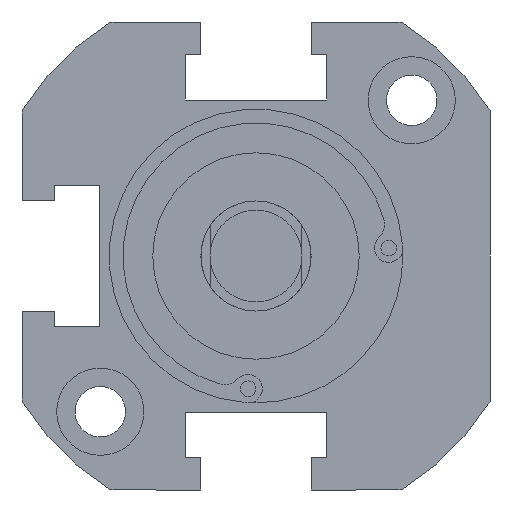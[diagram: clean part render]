
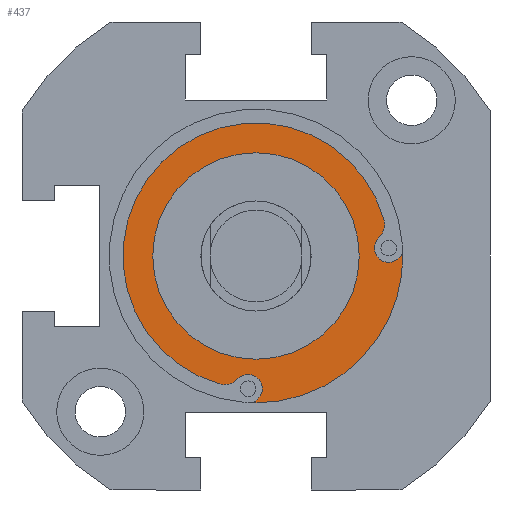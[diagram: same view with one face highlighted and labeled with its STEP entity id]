
A CAD part, front view. The second image highlights one B-rep face of the part: STEP entity #437.
In plain terms, the highlighted planar face has unit normal (0, -1, 0).
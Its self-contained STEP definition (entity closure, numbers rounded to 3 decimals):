
#12 = VERTEX_POINT ( 'NONE', #2647 ) ;
#26 = DIRECTION ( 'NONE',  ( 0., 1., 0. ) ) ;
#42 = EDGE_LOOP ( 'NONE', ( #2680, #2923, #3305, #2929, #1529, #154, #2613, #2730, #2969 ) ) ;
#44 = VERTEX_POINT ( 'NONE', #2404 ) ;
#48 = EDGE_LOOP ( 'NONE', ( #2308, #3347 ) ) ;
#154 = ORIENTED_EDGE ( 'NONE', *, *, #3213, .T. ) ;
#201 = CARTESIAN_POINT ( 'NONE',  ( 0., -33., -16. ) ) ;
#214 = VERTEX_POINT ( 'NONE', #1533 ) ;
#221 = CIRCLE ( 'NONE', #1075, 1.55 ) ;
#283 = DIRECTION ( 'NONE',  ( 0., -1., 0. ) ) ;
#353 = EDGE_CURVE ( 'NONE', #2619, #497, #850, .T. ) ;
#437 = ADVANCED_FACE ( 'NONE', ( #603, #1655 ), #2090, .T. ) ;
#479 = CARTESIAN_POINT ( 'NONE',  ( 13.942, -33., 3.982 ) ) ;
#497 = VERTEX_POINT ( 'NONE', #3640 ) ;
#506 = DIRECTION ( 'NONE',  ( 0., 0., 1. ) ) ;
#540 = CARTESIAN_POINT ( 'NONE',  ( -0.582, -33., -15.989 ) ) ;
#543 = VERTEX_POINT ( 'NONE', #540 ) ;
#567 = AXIS2_PLACEMENT_3D ( 'NONE', #2408, #1832, #2752 ) ;
#603 = FACE_OUTER_BOUND ( 'NONE', #42, .T. ) ;
#614 = CARTESIAN_POINT ( 'NONE',  ( -3.433, -33., -12.019 ) ) ;
#663 = AXIS2_PLACEMENT_3D ( 'NONE', #3015, #2079, #1752 ) ;
#683 = DIRECTION ( 'NONE',  ( 0., 0., 1. ) ) ;
#794 = AXIS2_PLACEMENT_3D ( 'NONE', #2944, #2932, #2001 ) ;
#815 = CIRCLE ( 'NONE', #1054, 16. ) ;
#850 = CIRCLE ( 'NONE', #2434, 11.25 ) ;
#932 = CARTESIAN_POINT ( 'NONE',  ( 12.019, -33., 3.433 ) ) ;
#1054 = AXIS2_PLACEMENT_3D ( 'NONE', #2591, #1658, #683 ) ;
#1059 = VERTEX_POINT ( 'NONE', #1797 ) ;
#1075 = AXIS2_PLACEMENT_3D ( 'NONE', #3875, #2538, #1685 ) ;
#1202 = EDGE_CURVE ( 'NONE', #2440, #214, #2196, .T. ) ;
#1258 = CARTESIAN_POINT ( 'NONE',  ( -3.433, -33., -14.019 ) ) ;
#1278 = CARTESIAN_POINT ( 'NONE',  ( 0., -33., 0. ) ) ;
#1293 = CIRCLE ( 'NONE', #3085, 14.5 ) ;
#1354 = DIRECTION ( 'NONE',  ( 0., 1., 0. ) ) ;
#1412 = EDGE_CURVE ( 'NONE', #12, #2440, #2528, .T. ) ;
#1497 = EDGE_CURVE ( 'NONE', #44, #2882, #2954, .T. ) ;
#1516 = CARTESIAN_POINT ( 'NONE',  ( -0.859, -33., -14.464 ) ) ;
#1529 = ORIENTED_EDGE ( 'NONE', *, *, #1202, .T. ) ;
#1533 = CARTESIAN_POINT ( 'NONE',  ( -1.983, -33., -13.397 ) ) ;
#1544 = CIRCLE ( 'NONE', #2271, 16. ) ;
#1609 = DIRECTION ( 'NONE',  ( 0., 0., -1. ) ) ;
#1625 = CARTESIAN_POINT ( 'NONE',  ( 0., -33., 0. ) ) ;
#1655 = FACE_BOUND ( 'NONE', #48, .T. ) ;
#1658 = DIRECTION ( 'NONE',  ( 0., 1., 0. ) ) ;
#1685 = DIRECTION ( 'NONE',  ( 0., 0., 1. ) ) ;
#1689 = CARTESIAN_POINT ( 'NONE',  ( 0., -33., 0. ) ) ;
#1738 = CARTESIAN_POINT ( 'NONE',  ( 0., -33., 0. ) ) ;
#1752 = DIRECTION ( 'NONE',  ( 0., 0., 1. ) ) ;
#1797 = CARTESIAN_POINT ( 'NONE',  ( 15.989, -33., 0.582 ) ) ;
#1832 = DIRECTION ( 'NONE',  ( 0., -1., 0. ) ) ;
#1979 = CIRCLE ( 'NONE', #2869, 11.25 ) ;
#2001 = DIRECTION ( 'NONE',  ( 0., 0., -1. ) ) ;
#2079 = DIRECTION ( 'NONE',  ( 0., -1., 0. ) ) ;
#2090 = PLANE ( 'NONE',  #567 ) ;
#2123 = CIRCLE ( 'NONE', #3049, 2. ) ;
#2196 = CIRCLE ( 'NONE', #3775, 2. ) ;
#2270 = DIRECTION ( 'NONE',  ( 0., 0., 1. ) ) ;
#2271 = AXIS2_PLACEMENT_3D ( 'NONE', #1689, #1354, #2302 ) ;
#2302 = DIRECTION ( 'NONE',  ( 0., 0., 1. ) ) ;
#2308 = ORIENTED_EDGE ( 'NONE', *, *, #353, .T. ) ;
#2404 = CARTESIAN_POINT ( 'NONE',  ( 13.397, -33., 1.983 ) ) ;
#2408 = CARTESIAN_POINT ( 'NONE',  ( 0., -33., 0. ) ) ;
#2413 = DIRECTION ( 'NONE',  ( 0., 1., 0. ) ) ;
#2434 = AXIS2_PLACEMENT_3D ( 'NONE', #1278, #26, #2270 ) ;
#2440 = VERTEX_POINT ( 'NONE', #1258 ) ;
#2524 = CARTESIAN_POINT ( 'NONE',  ( 14.464, -33., -0.691 ) ) ;
#2528 = CIRCLE ( 'NONE', #794, 2. ) ;
#2538 = DIRECTION ( 'NONE',  ( 0., -1., 0. ) ) ;
#2591 = CARTESIAN_POINT ( 'NONE',  ( 0., -33., 0. ) ) ;
#2613 = ORIENTED_EDGE ( 'NONE', *, *, #3811, .F. ) ;
#2614 = EDGE_CURVE ( 'NONE', #1059, #2842, #1544, .T. ) ;
#2619 = VERTEX_POINT ( 'NONE', #3221 ) ;
#2647 = CARTESIAN_POINT ( 'NONE',  ( -3.982, -33., -13.942 ) ) ;
#2680 = ORIENTED_EDGE ( 'NONE', *, *, #1497, .F. ) ;
#2693 = DIRECTION ( 'NONE',  ( 0., 0., 1. ) ) ;
#2730 = ORIENTED_EDGE ( 'NONE', *, *, #2614, .F. ) ;
#2752 = DIRECTION ( 'NONE',  ( 0., 0., 1. ) ) ;
#2783 = DIRECTION ( 'NONE',  ( 0., 0., -1. ) ) ;
#2842 = VERTEX_POINT ( 'NONE', #201 ) ;
#2869 = AXIS2_PLACEMENT_3D ( 'NONE', #1738, #3004, #2693 ) ;
#2879 = EDGE_CURVE ( 'NONE', #44, #3478, #2123, .T. ) ;
#2882 = VERTEX_POINT ( 'NONE', #2524 ) ;
#2923 = ORIENTED_EDGE ( 'NONE', *, *, #2879, .T. ) ;
#2929 = ORIENTED_EDGE ( 'NONE', *, *, #1412, .T. ) ;
#2932 = DIRECTION ( 'NONE',  ( 0., -1., 0. ) ) ;
#2944 = CARTESIAN_POINT ( 'NONE',  ( -3.433, -33., -12.019 ) ) ;
#2954 = CIRCLE ( 'NONE', #663, 1.55 ) ;
#2969 = ORIENTED_EDGE ( 'NONE', *, *, #3006, .F. ) ;
#3004 = DIRECTION ( 'NONE',  ( 0., 1., 0. ) ) ;
#3006 = EDGE_CURVE ( 'NONE', #2882, #1059, #221, .T. ) ;
#3015 = CARTESIAN_POINT ( 'NONE',  ( 14.464, -33., 0.859 ) ) ;
#3049 = AXIS2_PLACEMENT_3D ( 'NONE', #932, #283, #2783 ) ;
#3085 = AXIS2_PLACEMENT_3D ( 'NONE', #1625, #3835, #4076 ) ;
#3111 = AXIS2_PLACEMENT_3D ( 'NONE', #1516, #2413, #506 ) ;
#3213 = EDGE_CURVE ( 'NONE', #214, #543, #3817, .T. ) ;
#3221 = CARTESIAN_POINT ( 'NONE',  ( 0., -33., -11.25 ) ) ;
#3305 = ORIENTED_EDGE ( 'NONE', *, *, #3828, .F. ) ;
#3347 = ORIENTED_EDGE ( 'NONE', *, *, #4062, .T. ) ;
#3435 = DIRECTION ( 'NONE',  ( 0., -1., 0. ) ) ;
#3478 = VERTEX_POINT ( 'NONE', #479 ) ;
#3640 = CARTESIAN_POINT ( 'NONE',  ( 0., -33., 11.25 ) ) ;
#3775 = AXIS2_PLACEMENT_3D ( 'NONE', #614, #3435, #1609 ) ;
#3811 = EDGE_CURVE ( 'NONE', #2842, #543, #815, .T. ) ;
#3817 = CIRCLE ( 'NONE', #3111, 1.55 ) ;
#3828 = EDGE_CURVE ( 'NONE', #12, #3478, #1293, .T. ) ;
#3835 = DIRECTION ( 'NONE',  ( 0., 1., 0. ) ) ;
#3875 = CARTESIAN_POINT ( 'NONE',  ( 14.464, -33., 0.859 ) ) ;
#4062 = EDGE_CURVE ( 'NONE', #497, #2619, #1979, .T. ) ;
#4076 = DIRECTION ( 'NONE',  ( 0., 0., 1. ) ) ;
